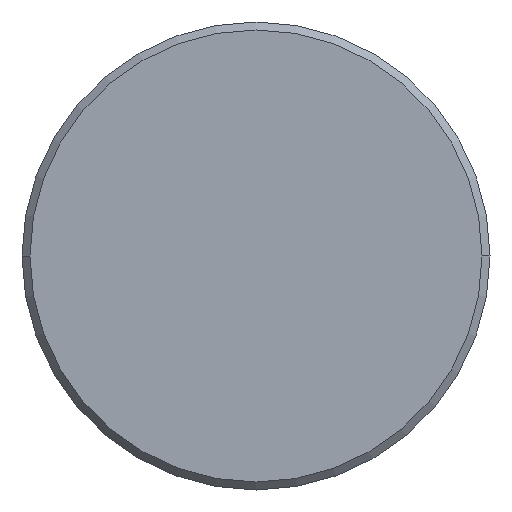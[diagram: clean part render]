
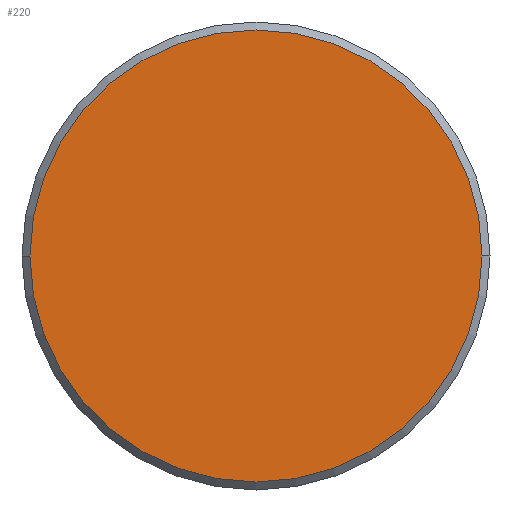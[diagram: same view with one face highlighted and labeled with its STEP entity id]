
A CAD part, left-side view. The second image highlights one B-rep face of the part: STEP entity #220.
In plain terms, the highlighted planar face has unit normal (-1, 0, 0).
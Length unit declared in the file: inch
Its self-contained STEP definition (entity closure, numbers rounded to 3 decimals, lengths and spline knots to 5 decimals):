
#1 = PLANE ( 'NONE',  #157 ) ;
#9 = AXIS2_PLACEMENT_3D ( 'NONE', #260, #52, #200 ) ;
#19 = EDGE_CURVE ( 'NONE', #279, #319, #45, .T. ) ;
#45 = CIRCLE ( 'NONE', #53, 0.11319 ) ;
#52 = DIRECTION ( 'NONE',  ( -1., 0., 0. ) ) ;
#53 = AXIS2_PLACEMENT_3D ( 'NONE', #107, #252, #76 ) ;
#73 = EDGE_CURVE ( 'NONE', #319, #279, #253, .T. ) ;
#76 = DIRECTION ( 'NONE',  ( 0., -1., 0. ) ) ;
#107 = CARTESIAN_POINT ( 'NONE',  ( 0., 0., 0. ) ) ;
#126 = CARTESIAN_POINT ( 'NONE',  ( 0., -0.11319, 0. ) ) ;
#157 = AXIS2_PLACEMENT_3D ( 'NONE', #379, #329, #262 ) ;
#181 = EDGE_LOOP ( 'NONE', ( #250, #292 ) ) ;
#200 = DIRECTION ( 'NONE',  ( 0., -1., 0. ) ) ;
#220 = ADVANCED_FACE ( 'NONE', ( #353 ), #1, .T. ) ;
#250 = ORIENTED_EDGE ( 'NONE', *, *, #19, .T. ) ;
#252 = DIRECTION ( 'NONE',  ( -1., 0., 0. ) ) ;
#253 = CIRCLE ( 'NONE', #9, 0.11319 ) ;
#260 = CARTESIAN_POINT ( 'NONE',  ( 0., 0., 0. ) ) ;
#262 = DIRECTION ( 'NONE',  ( 0., -1., 0. ) ) ;
#279 = VERTEX_POINT ( 'NONE', #380 ) ;
#292 = ORIENTED_EDGE ( 'NONE', *, *, #73, .T. ) ;
#319 = VERTEX_POINT ( 'NONE', #126 ) ;
#329 = DIRECTION ( 'NONE',  ( -1., 0., 0. ) ) ;
#353 = FACE_OUTER_BOUND ( 'NONE', #181, .T. ) ;
#379 = CARTESIAN_POINT ( 'NONE',  ( 0., 0., 0. ) ) ;
#380 = CARTESIAN_POINT ( 'NONE',  ( 0., 0.11319, 0. ) ) ;
